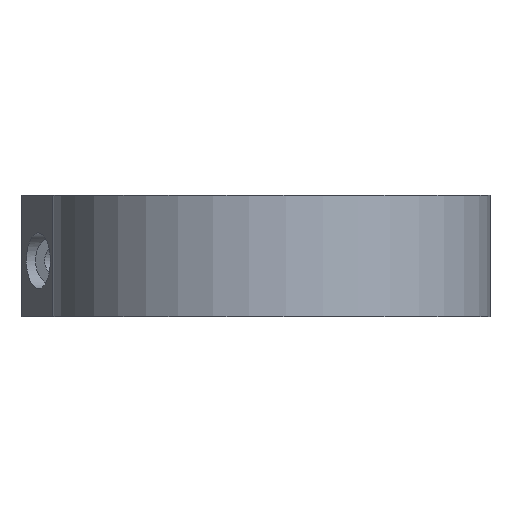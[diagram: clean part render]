
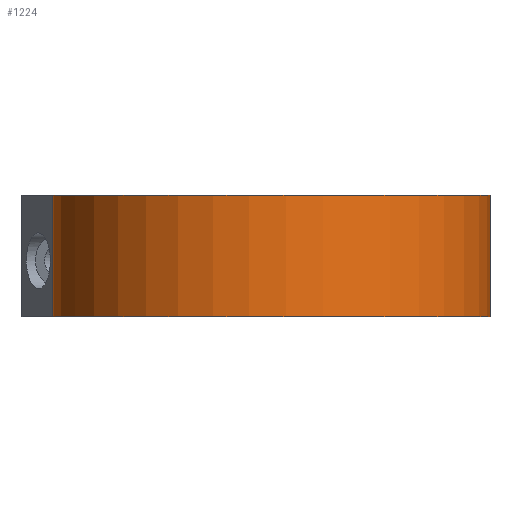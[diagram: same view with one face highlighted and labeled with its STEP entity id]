
A CAD part, front view. The second image highlights one B-rep face of the part: STEP entity #1224.
In plain terms, the highlighted cylindrical face has radius 23.5 mm (diameter 47 mm), a partial arc.
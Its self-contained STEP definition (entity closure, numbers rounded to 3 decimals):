
#106=FACE_OUTER_BOUND('',#180,.T.);
#180=EDGE_LOOP('',(#1085,#1086,#1087,#1088));
#282=LINE('',#2134,#380);
#283=LINE('',#2136,#381);
#380=VECTOR('',#1760,10.);
#381=VECTOR('',#1763,10.);
#406=CIRCLE('',#1269,23.5);
#460=CIRCLE('',#1358,23.5);
#490=VERTEX_POINT('',#1834);
#491=VERTEX_POINT('',#1836);
#566=VERTEX_POINT('',#2057);
#567=VERTEX_POINT('',#2059);
#612=EDGE_CURVE('',#490,#491,#406,.T.);
#724=EDGE_CURVE('',#566,#567,#460,.T.);
#761=EDGE_CURVE('',#566,#491,#282,.T.);
#762=EDGE_CURVE('',#490,#567,#283,.T.);
#1085=ORIENTED_EDGE('',*,*,#761,.T.);
#1086=ORIENTED_EDGE('',*,*,#612,.F.);
#1087=ORIENTED_EDGE('',*,*,#762,.T.);
#1088=ORIENTED_EDGE('',*,*,#724,.F.);
#1165=CYLINDRICAL_SURFACE('',#1384,23.5);
#1224=ADVANCED_FACE('',(#106),#1165,.T.);
#1269=AXIS2_PLACEMENT_3D('',#1837,#1444,#1445);
#1358=AXIS2_PLACEMENT_3D('',#2060,#1680,#1681);
#1384=AXIS2_PLACEMENT_3D('',#2135,#1761,#1762);
#1444=DIRECTION('center_axis',(0.,0.,-1.));
#1445=DIRECTION('ref_axis',(1.,0.,0.));
#1680=DIRECTION('center_axis',(0.,0.,1.));
#1681=DIRECTION('ref_axis',(1.,0.,0.));
#1760=DIRECTION('',(0.,0.,-1.));
#1761=DIRECTION('center_axis',(0.,0.,1.));
#1762=DIRECTION('ref_axis',(0.543,-0.84,0.));
#1763=DIRECTION('',(0.,0.,1.));
#1834=CARTESIAN_POINT('',(8.552,21.889,-6.5));
#1836=CARTESIAN_POINT('',(-23.471,1.165,-6.5));
#1837=CARTESIAN_POINT('Origin',(0.,0.,-6.5));
#2057=CARTESIAN_POINT('',(-23.471,1.165,6.5));
#2059=CARTESIAN_POINT('',(8.552,21.889,6.5));
#2060=CARTESIAN_POINT('Origin',(0.,0.,6.5));
#2134=CARTESIAN_POINT('',(-23.471,1.165,0.));
#2135=CARTESIAN_POINT('Origin',(0.,0.,0.));
#2136=CARTESIAN_POINT('',(8.552,21.889,0.));
